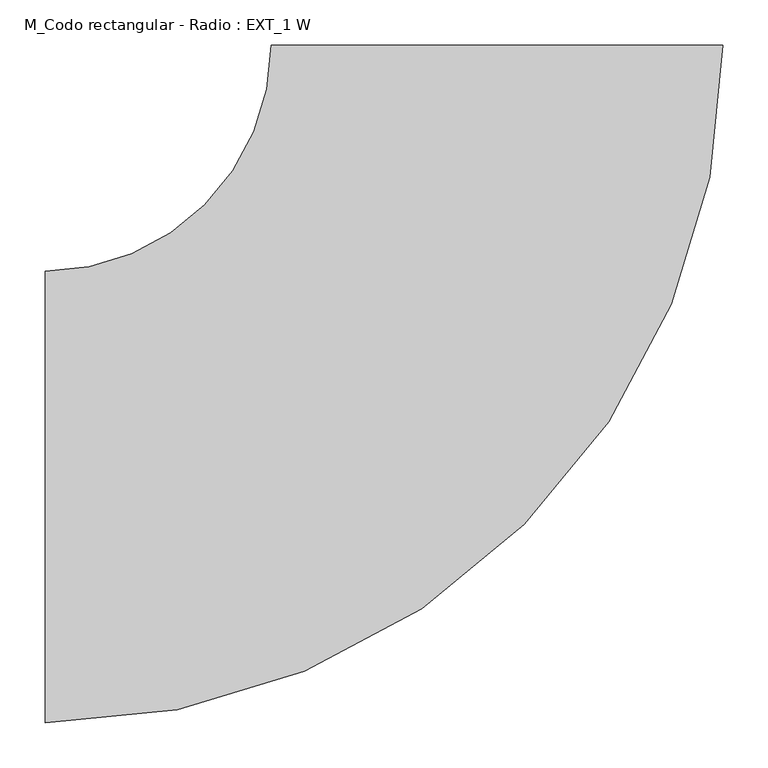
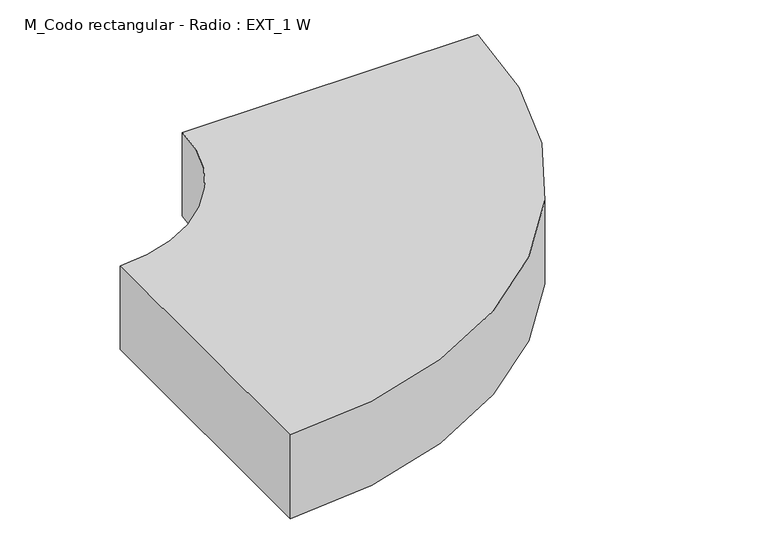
"""IFC4 building model written with IfcOpenShell, lengths in millimetres: duct fitting geometry, M_Codo rectangular - Radio : EXT_1 W."""

from ifc_helpers import new_model, si_unit, point, frame, frame_2d, origin, place, context, project, spatial, polyline, circle_curve, trimmed, segment, composite_curve, outline, extrude, source, transform, mapped, element, save


def m_codo_rectangular_radio_ext_1_w_33ef8804(model_context):
    return source(origin(), model_context, "Body", "SweptSolid", [
        extrude(outline(composite_curve([segment(trimmed(circle_curve(frame_2d((-500.0, 500.0)), 750.0), [point((250.0, 500.0))], [point((-500.0, -250.0))], False, "CARTESIAN"), True, "CONTINUOUS"), segment(polyline([(-500.0, -250.0), (-500.0, 250.0)]), True, "CONTINUOUS"), segment(trimmed(circle_curve(frame_2d((-500.0, 500.0)), 250.0), [point((-500.0, 250.0))], [point((-250.0, 500.0))], True, "CARTESIAN"), True, "CONTINUOUS"), segment(polyline([(-250.0, 500.0), (250.0, 500.0)]), True, "CONTINUOUS")], self_intersect=False)), frame((0.0, 0.0, -75.0), z_axis=(0.0, 0.0, 1.0), x_axis=(1.0, 0.0, 0.0)), (0.0, 0.0, 1.0), 150.0),
    ])


if __name__ == "__main__":
    model = new_model("IFC4")
    model_context = context("Model", 3, world=origin())
    ifc_project = project(units=[si_unit("LENGTHUNIT", "METRE", prefix="MILLI")], contexts=[model_context])
    site = spatial("IfcSite", under=ifc_project)
    building = spatial("IfcBuilding", under=site)
    placement = place(None, origin())
    m_codo_rectangular_radio_ext_1_w_shape = m_codo_rectangular_radio_ext_1_w_33ef8804(model_context)
    element("IfcDuctFitting", 1, ObjectType="M_Codo rectangular - Radio : EXT_1 W", at=placement, inside=building, context=model_context, shape_type="MappedRepresentation", body=[
        mapped(m_codo_rectangular_radio_ext_1_w_shape, transform((0.0, 0.0, 0.0), x_axis=(1.0, 0.0, 0.0), y_axis=(0.0, 1.0, 0.0), z_axis=(0.0, 0.0, 1.0))),
    ])
    save(model, "model.ifc")
